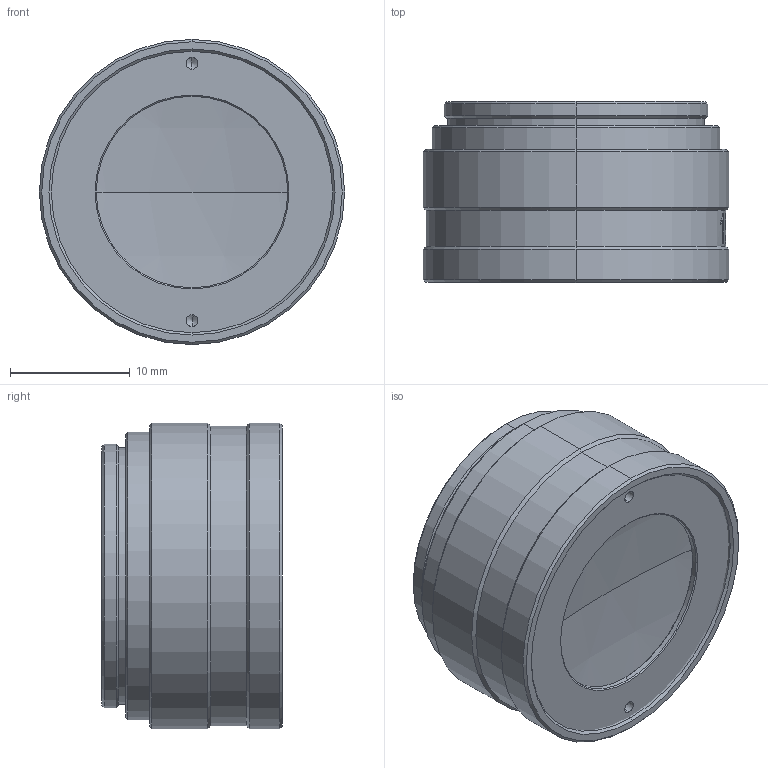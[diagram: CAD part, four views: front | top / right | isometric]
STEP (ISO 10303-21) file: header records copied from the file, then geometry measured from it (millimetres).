
FILE_DESCRIPTION (( 'STEP AP203' ), '1' );
FILE_NAME ('RK-Z65F15.STEP', '2022-10-27T06:38:34', ( 'Windows 蚚誧' ), ( 'Organization' ), 'SwSTEP 2.0', 'SolidWorks 2018', '' );
FILE_SCHEMA (( 'CONFIG_CONTROL_DESIGN' ));
Length unit declared in the file: millimetre
Products named in the file (1): RK-Z65F15
Bounding box: 25.5 x 15.09 x 25.5 mm (x, y, z)
Volume: 3789.9 mm3; surface area: 4539.7 mm2
Topology: 3 solids, 3 shells, 151 faces, 343 edges, 210 vertices
Faces by surface type: cone 48, cylinder 40, plane 30, bspline 27, sphere 6
Entity records: 5766 total; most frequent: CARTESIAN_POINT 2448, ORIENTED_EDGE 678, DIRECTION 647, EDGE_CURVE 339, AXIS2_PLACEMENT_3D 271, VERTEX_POINT 210, EDGE_LOOP 171, ADVANCED_FACE 151
